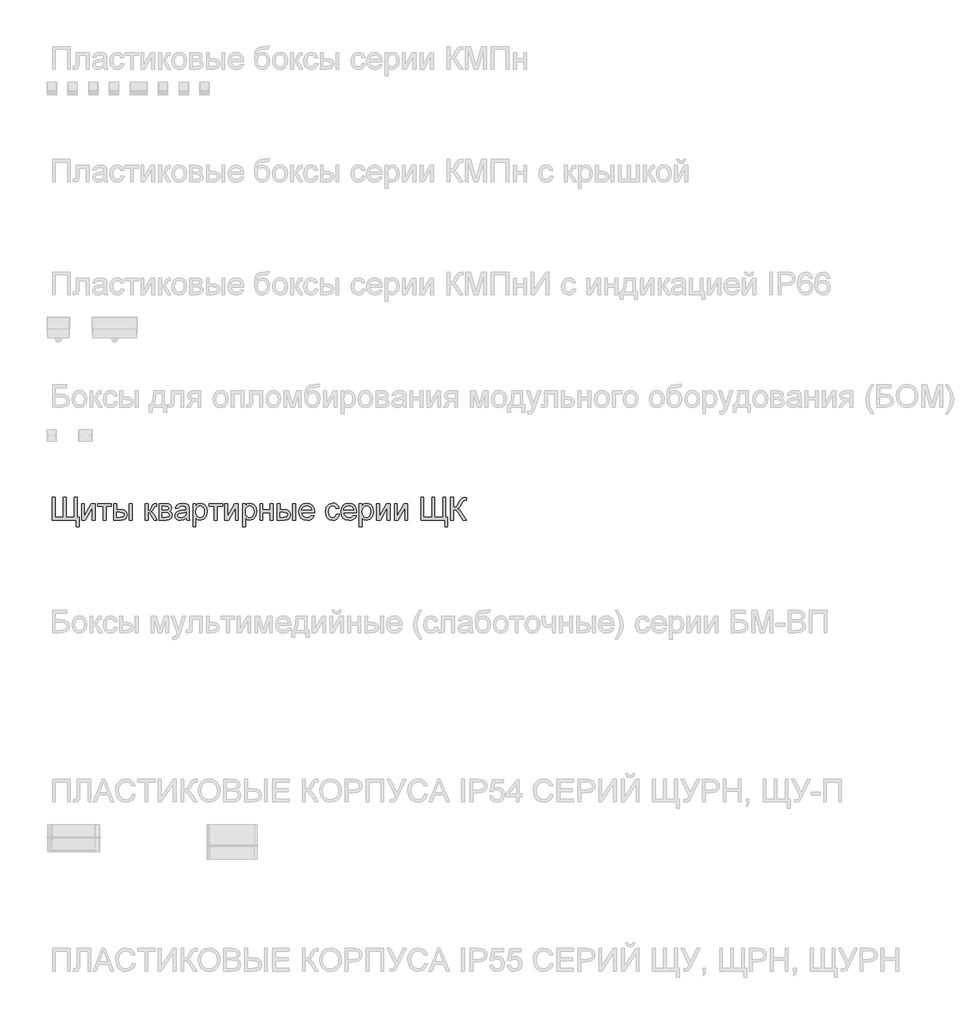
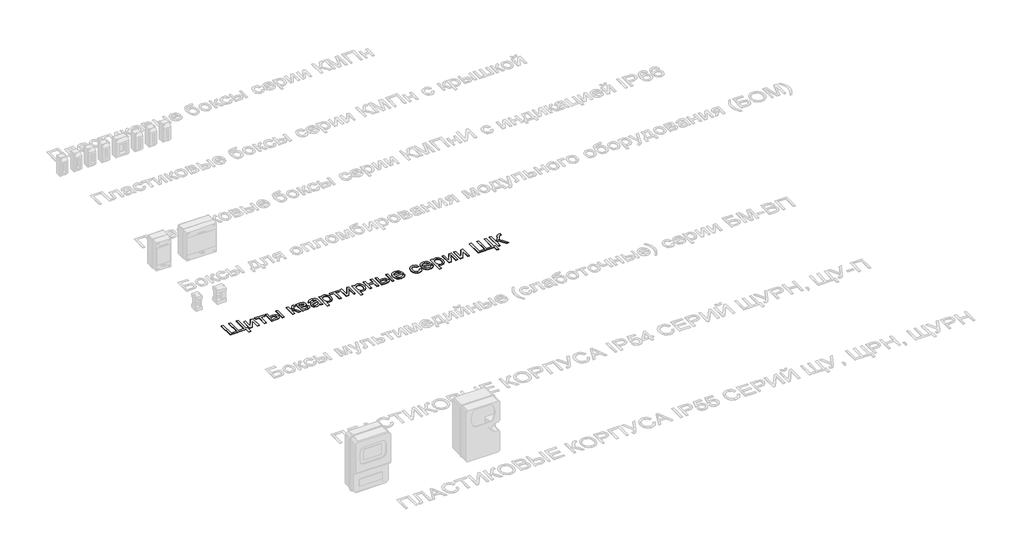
# One storey, part 18 of 25: 1 proxy.
"""IFC4 building model written with IfcOpenShell, lengths in millimetres."""

from ifc_helpers import new_model, si_unit, frame, origin, place, context, project, spatial, polyline, outline, extrude, element, save

model = new_model("IFC4")

# Units and contexts
model_context = context("Model", 3, world=origin())
ifc_project = project(units=[si_unit("LENGTHUNIT", "METRE", prefix="MILLI")], contexts=[model_context])

# Site, building, storey
site = spatial("IfcSite", under=ifc_project)
building = spatial("IfcBuilding", under=site)
storey = spatial("IfcBuildingStorey", under=building, Name="Этаж 01", Elevation=0.0)

# Proxy
placement = place(None, origin())
element("IfcBuildingElementProxy", 1, Name="Надпись на модели 1", ObjectType="Надпись на модели 1", at=placement, inside=storey, context=model_context, shape_type="SweptSolid", body=[
    extrude(outline(polyline([(-19039.6906686, 14136.6915941), (-19027.1336298, 14136.6915941), (-19027.1336298, 14048.7923228), (-18991.0321433, 14048.7923228), (-18991.0321433, 14136.6915941), (-18978.4751046, 14136.6915941), (-18978.4751046, 14048.7923228), (-18942.3736181, 14048.7923228), (-18942.3736181, 14136.6915941), (-18929.8165793, 14136.6915941), (-18929.8165793, 14048.7923228), (-18920.3988003, 14048.7923228), (-18920.3988003, 14007.9819468), (-18932.955839, 14007.9819468), (-18932.955839, 14036.235284), (-19039.6906686, 14036.235284), (-19039.6906686, 14136.6915941)])), frame((0.0, 0.0, 40.0), z_axis=(0.0, 0.0, 1.0), x_axis=(1.0, 0.0, 0.0)), (0.0, 0.0, 1.0), 2.0),
    extrude(outline(polyline([(-18909.4113913, 14110.0078868), (-18896.8543526, 14110.0078868), (-18896.8543526, 14053.746467), (-18866.0013159, 14110.0078868), (-18849.7654572, 14110.0078868), (-18849.7654572, 14036.235284), (-18862.322496, 14036.235284), (-18862.322496, 14092.1533473), (-18892.9793289, 14036.235284), (-18909.4113913, 14036.235284), (-18909.4113913, 14110.0078868)])), frame((0.0, 0.0, 40.0), z_axis=(0.0, 0.0, 1.0), x_axis=(1.0, 0.0, 0.0)), (0.0, 0.0, 1.0), 2.0),
    extrude(outline(polyline([(-18837.2084184, 14110.0078868), (-18777.5624843, 14110.0078868), (-18777.5624843, 14097.450848), (-18801.106932, 14097.450848), (-18801.106932, 14036.235284), (-18813.6639707, 14036.235284), (-18813.6639707, 14097.450848), (-18837.2084184, 14097.450848), (-18837.2084184, 14110.0078868)])), frame((0.0, 0.0, 40.0), z_axis=(0.0, 0.0, 1.0), x_axis=(1.0, 0.0, 0.0)), (0.0, 0.0, 1.0), 2.0),
    extrude(outline(polyline([(-18766.5750754, 14110.0078868), (-18754.0180366, 14110.0078868), (-18754.0180366, 14083.3241794), (-18738.4934164, 14083.3241794), (-18725.0749206, 14081.7514838), (-18715.1329097, 14077.0333973), (-18708.9800833, 14069.5500643), (-18706.9291412, 14059.6816298), (-18708.6489895, 14050.6961121), (-18713.8085345, 14043.1146773), (-18722.7450013, 14037.9551323), (-18735.7956151, 14036.235284), (-18766.5750754, 14036.235284), (-18766.5750754, 14110.0078868)]), holes=[polyline([(-18754.0180366, 14048.7923228), (-18741.1176413, 14048.7923228), (-18724.4648496, 14051.4288104), (-18719.48618, 14059.6571044), (-18723.1772627, 14067.3826263), (-18739.474435, 14070.7671406), (-18754.0180366, 14070.7671406), (-18754.0180366, 14048.7923228)])]), frame((0.0, 0.0, 40.0), z_axis=(0.0, 0.0, 1.0), x_axis=(1.0, 0.0, 0.0)), (0.0, 0.0, 1.0), 2.0),
    extrude(outline(polyline([(-18697.5113621, 14110.0078868), (-18684.9543234, 14110.0078868), (-18684.9543234, 14036.235284), (-18697.5113621, 14036.235284), (-18697.5113621, 14110.0078868)])), frame((0.0, 0.0, 40.0), z_axis=(0.0, 0.0, 1.0), x_axis=(1.0, 0.0, 0.0)), (0.0, 0.0, 1.0), 2.0),
    extrude(outline(polyline([(-18626.8780191, 14110.0078868), (-18614.3209803, 14110.0078868), (-18614.3209803, 14078.6152898), (-18605.9087453, 14080.8716327), (-18599.0170893, 14094.0172827), (-18593.2903929, 14105.3603109), (-18588.2381468, 14109.0513936), (-18579.0533597, 14110.0078868), (-18576.649864, 14110.0078868), (-18576.649864, 14097.3772716), (-18580.0343783, 14097.450848), (-18586.1657449, 14096.1264728), (-18590.482227, 14087.8613906), (-18595.5467358, 14078.9218582), (-18602.6468583, 14074.5440624), (-18594.7251327, 14069.6573633), (-18586.9505598, 14059.3627988), (-18573.5106043, 14036.235284), (-18587.7844257, 14036.235284), (-18600.9546011, 14058.8722894), (-18607.576477, 14068.449484), (-18614.3209803, 14070.7671406), (-18614.3209803, 14036.235284), (-18626.8780191, 14036.235284), (-18626.8780191, 14110.0078868)])), frame((0.0, 0.0, 40.0), z_axis=(0.0, 0.0, 1.0), x_axis=(1.0, 0.0, 0.0)), (0.0, 0.0, 1.0), 2.0),
    extrude(outline(polyline([(-18565.6624551, 14110.0078868), (-18537.997729, 14110.0078868), (-18522.8287281, 14108.3278923), (-18514.2938658, 14102.1720003), (-18510.7254104, 14091.4421087), (-18512.8836515, 14082.7233055), (-18519.3829001, 14076.5060997), (-18510.9461396, 14069.7002828), (-18507.5861508, 14057.8667453), (-18509.713735, 14048.2956821), (-18514.7721124, 14041.5573102), (-18522.7796772, 14037.5657905), (-18533.7548233, 14036.235284), (-18565.6624551, 14036.235284), (-18565.6624551, 14110.0078868)]), holes=[polyline([(-18553.1054163, 14081.7545495), (-18540.6955303, 14081.7545495), (-18530.4561481, 14082.3922117), (-18525.4774784, 14084.9428602), (-18523.2824492, 14089.5536478), (-18527.1329474, 14095.7095399), (-18540.3031229, 14097.450848), (-18553.1054163, 14097.450848), (-18553.1054163, 14081.7545495)]), polyline([(-18553.1054163, 14048.7923228), (-18537.7034234, 14048.7923228), (-18524.0427387, 14051.0609284), (-18520.1431895, 14058.8968149), (-18522.2891678, 14064.9423424), (-18527.8809742, 14068.4617468), (-18538.9296967, 14069.1975108), (-18553.1054163, 14069.1975108), (-18553.1054163, 14048.7923228)])]), frame((0.0, 0.0, 40.0), z_axis=(0.0, 0.0, 1.0), x_axis=(1.0, 0.0, 0.0)), (0.0, 0.0, 1.0), 2.0),
    extrude(outline(polyline([(-18444.8009569, 14045.6530631), (-18456.9778509, 14037.1427262), (-18470.4300692, 14034.6656541), (-18480.9239031, 14036.1555762), (-18488.6647535, 14040.6253425), (-18493.4380224, 14047.4127653), (-18495.029112, 14055.8556571), (-18492.6256163, 14065.7884709), (-18486.3103087, 14072.998958), (-18477.517929, 14077.1192364), (-18466.6531474, 14079.0076973), (-18444.8745333, 14083.3241794), (-18444.8009569, 14086.1200825), (-18448.2590477, 14095.3907088), (-18462.1404616, 14099.0204778), (-18474.8446532, 14096.6047194), (-18480.9024434, 14088.0330689), (-18493.4594821, 14089.6026988), (-18488.0270913, 14101.8654319), (-18477.0887333, 14109.0513936), (-18460.5217808, 14111.5775166), (-18445.303729, 14109.3456992), (-18436.707553, 14103.7416301), (-18432.8570548, 14095.2190306), (-18432.2439181, 14084.2316216), (-18432.2439181, 14068.6088996), (-18431.606256, 14046.7934973), (-18429.1046584, 14036.235284), (-18441.6616972, 14036.235284), (-18444.8009569, 14045.6530631)]), holes=[polyline([(-18444.8009569, 14070.7671406), (-18465.0589921, 14066.9166424), (-18475.86246, 14064.8810287), (-18480.7552906, 14061.5700907), (-18482.4720732, 14056.7385739), (-18478.7319396, 14049.9450197), (-18467.7567934, 14047.2226929), (-18455.0526018, 14050.2270625), (-18446.8610961, 14057.4988633), (-18444.8745333, 14067.210948), (-18444.8009569, 14070.7671406)])]), frame((0.0, 0.0, 40.0), z_axis=(0.0, 0.0, 1.0), x_axis=(1.0, 0.0, 0.0)), (0.0, 0.0, 1.0), 2.0),
    extrude(outline(polyline([(-18414.9779898, 14007.9819468), (-18414.9779898, 14110.0078868), (-18402.4209511, 14110.0078868), (-18402.4209511, 14097.6961027), (-18393.738936, 14108.1071631), (-18382.0157631, 14111.5775166), (-18366.0987354, 14106.7214743), (-18355.6999377, 14093.036264), (-18352.192796, 14073.6856711), (-18356.1536588, 14053.3417968), (-18367.6561025, 14039.4849083), (-18383.536342, 14034.6656541), (-18394.4624372, 14037.890753), (-18402.4209511, 14046.0454705), (-18402.4209511, 14007.9819468), (-18414.9779898, 14007.9819468)]), holes=[polyline([(-18402.4209511, 14072.5329742), (-18401.0628534, 14061.2757851), (-18396.9885603, 14053.4031104), (-18390.9767553, 14048.7677973), (-18383.8061221, 14047.2226929), (-18376.5189929, 14048.8229796), (-18370.3539038, 14053.6238396), (-18366.150852, 14061.7846886), (-18364.7498348, 14073.4649419), (-18366.1171295, 14084.6608173), (-18370.2190138, 14092.6438566), (-18376.2216216, 14097.4263225), (-18383.2910873, 14099.0204778), (-18390.3881441, 14097.325155), (-18396.6206783, 14092.2391864), (-18400.9708829, 14083.9219876), (-18402.4209511, 14072.5329742)])]), frame((0.0, 0.0, 40.0), z_axis=(0.0, 0.0, 1.0), x_axis=(1.0, 0.0, 0.0)), (0.0, 0.0, 1.0), 2.0),
    extrude(outline(polyline([(-18344.3446468, 14110.0078868), (-18284.6987126, 14110.0078868), (-18284.6987126, 14097.450848), (-18308.2431603, 14097.450848), (-18308.2431603, 14036.235284), (-18320.8001991, 14036.235284), (-18320.8001991, 14097.450848), (-18344.3446468, 14097.450848), (-18344.3446468, 14110.0078868)])), frame((0.0, 0.0, 40.0), z_axis=(0.0, 0.0, 1.0), x_axis=(1.0, 0.0, 0.0)), (0.0, 0.0, 1.0), 2.0),
    extrude(outline(polyline([(-18273.7113037, 14110.0078868), (-18261.1542649, 14110.0078868), (-18261.1542649, 14053.746467), (-18230.3012283, 14110.0078868), (-18214.0653695, 14110.0078868), (-18214.0653695, 14036.235284), (-18226.6224083, 14036.235284), (-18226.6224083, 14092.1533473), (-18257.2792412, 14036.235284), (-18273.7113037, 14036.235284), (-18273.7113037, 14110.0078868)])), frame((0.0, 0.0, 40.0), z_axis=(0.0, 0.0, 1.0), x_axis=(1.0, 0.0, 0.0)), (0.0, 0.0, 1.0), 2.0),
    extrude(outline(polyline([(-18195.2298114, 14007.9819468), (-18195.2298114, 14110.0078868), (-18182.6727726, 14110.0078868), (-18182.6727726, 14097.6961027), (-18173.9907575, 14108.1071631), (-18162.2675846, 14111.5775166), (-18146.350557, 14106.7214743), (-18135.9517592, 14093.036264), (-18132.4446175, 14073.6856711), (-18136.4054803, 14053.3417968), (-18147.9079241, 14039.4849083), (-18163.7881635, 14034.6656541), (-18174.7142588, 14037.890753), (-18182.6727726, 14046.0454705), (-18182.6727726, 14007.9819468), (-18195.2298114, 14007.9819468)]), holes=[polyline([(-18182.6727726, 14072.5329742), (-18181.3146749, 14061.2757851), (-18177.2403818, 14053.4031104), (-18171.2285769, 14048.7677973), (-18164.0579437, 14047.2226929), (-18156.7708145, 14048.8229796), (-18150.6057254, 14053.6238396), (-18146.4026736, 14061.7846886), (-18145.0016563, 14073.4649419), (-18146.3689511, 14084.6608173), (-18150.4708353, 14092.6438566), (-18156.4734432, 14097.4263225), (-18163.5429089, 14099.0204778), (-18170.6399657, 14097.325155), (-18176.8724998, 14092.2391864), (-18181.2227044, 14083.9219876), (-18182.6727726, 14072.5329742)])]), frame((0.0, 0.0, 40.0), z_axis=(0.0, 0.0, 1.0), x_axis=(1.0, 0.0, 0.0)), (0.0, 0.0, 1.0), 2.0),
    extrude(outline(polyline([(-18118.3179489, 14110.0078868), (-18105.7609102, 14110.0078868), (-18105.7609102, 14081.7545495), (-18072.7986834, 14081.7545495), (-18072.7986834, 14110.0078868), (-18060.2416446, 14110.0078868), (-18060.2416446, 14036.235284), (-18072.7986834, 14036.235284), (-18072.7986834, 14069.1975108), (-18105.7609102, 14069.1975108), (-18105.7609102, 14036.235284), (-18118.3179489, 14036.235284), (-18118.3179489, 14110.0078868)])), frame((0.0, 0.0, 40.0), z_axis=(0.0, 0.0, 1.0), x_axis=(1.0, 0.0, 0.0)), (0.0, 0.0, 1.0), 2.0),
    extrude(outline(polyline([(-17972.3423732, 14110.0078868), (-17959.7853345, 14110.0078868), (-17959.7853345, 14036.235284), (-17972.3423732, 14036.235284), (-17972.3423732, 14110.0078868)])), frame((0.0, 0.0, 40.0), z_axis=(0.0, 0.0, 1.0), x_axis=(1.0, 0.0, 0.0)), (0.0, 0.0, 1.0), 2.0),
    extrude(outline(polyline([(-18041.4060865, 14110.0078868), (-18028.8490477, 14110.0078868), (-18028.8490477, 14083.3241794), (-18013.3244275, 14083.3241794), (-17999.9059317, 14081.7514838), (-17989.9639208, 14077.0333973), (-17983.8110944, 14069.5500643), (-17981.7601523, 14059.6816298), (-17983.4800006, 14050.6961121), (-17988.6395456, 14043.1146773), (-17997.5760124, 14037.9551323), (-18010.6266262, 14036.235284), (-18041.4060865, 14036.235284), (-18041.4060865, 14110.0078868)]), holes=[polyline([(-18028.8490477, 14048.7923228), (-18015.9486524, 14048.7923228), (-17999.2958607, 14051.4288104), (-17994.3171911, 14059.6571044), (-17998.0082738, 14067.3826263), (-18014.3054462, 14070.7671406), (-18028.8490477, 14070.7671406), (-18028.8490477, 14048.7923228)])]), frame((0.0, 0.0, 40.0), z_axis=(0.0, 0.0, 1.0), x_axis=(1.0, 0.0, 0.0)), (0.0, 0.0, 1.0), 2.0),
    extrude(outline(polyline([(-17889.2991442, 14058.2101018), (-17876.9873601, 14056.640472), (-17881.4234038, 14047.3637143), (-17888.5020665, 14040.4291387), (-17898.0639327, 14036.1065253), (-17909.9495869, 14034.6656541), (-17924.6832608, 14037.1519233), (-17936.0201576, 14044.6107308), (-17943.2490388, 14056.5576985), (-17945.6586659, 14072.5084487), (-17943.2245133, 14088.9956935), (-17935.9220557, 14101.3258717), (-17924.7384431, 14109.0146054), (-17910.6608254, 14111.5775166), (-17897.0216004, 14109.0207367), (-17886.1230963, 14101.3503971), (-17878.9769885, 14089.0447444), (-17876.5949526, 14072.5820251), (-17876.668529, 14069.1975108), (-17933.1016271, 14069.1975108), (-17930.9280576, 14059.7981258), (-17925.8788772, 14052.8880756), (-17918.5917481, 14048.6390386), (-17909.7043322, 14047.2226929), (-17897.3925481, 14049.8469178), (-17889.2991442, 14058.2101018)]), holes=[polyline([(-17933.1016271, 14081.7545495), (-17889.1519914, 14081.7545495), (-17894.179712, 14093.1343659), (-17901.5005637, 14097.5489499), (-17910.7098763, 14099.0204778), (-17926.1731828, 14094.323851), (-17931.0384222, 14088.8332123), (-17933.1016271, 14081.7545495)])]), frame((0.0, 0.0, 40.0), z_axis=(0.0, 0.0, 1.0), x_axis=(1.0, 0.0, 0.0)), (0.0, 0.0, 1.0), 2.0),
    extrude(outline(polyline([(-17777.7082723, 14062.9189914), (-17765.1512336, 14061.3493615), (-17768.6522439, 14050.1810773), (-17775.2312002, 14041.7412512), (-17784.2688346, 14036.4345534), (-17795.1458789, 14034.6656541), (-17808.503061, 14037.1335292), (-17818.947844, 14044.5371544), (-17825.6892815, 14056.5515672), (-17827.9364274, 14072.8518052), (-17824.0981919, 14093.7107144), (-17812.3995445, 14107.1138817), (-17795.3175572, 14111.5775166), (-17784.7072273, 14110.044675), (-17776.2244816, 14105.44615), (-17770.1391003, 14098.0271964), (-17766.7208634, 14088.0330689), (-17779.2779022, 14086.4634391), (-17785.1027004, 14095.8689554), (-17795.2194553, 14099.0204778), (-17803.334319, 14097.4692421), (-17809.7753196, 14092.8155349), (-17813.9783714, 14084.8079701), (-17815.3793886, 14073.1951618), (-17814.0090282, 14061.4260036), (-17809.8979469, 14053.3908477), (-17803.5734423, 14048.7647316), (-17795.5628118, 14047.2226929), (-17783.7292743, 14051.0731911), (-17777.7082723, 14062.9189914)])), frame((0.0, 0.0, 40.0), z_axis=(0.0, 0.0, 1.0), x_axis=(1.0, 0.0, 0.0)), (0.0, 0.0, 1.0), 2.0),
    extrude(outline(polyline([(-17702.5131925, 14058.2101018), (-17690.2014084, 14056.640472), (-17694.6374521, 14047.3637143), (-17701.7161148, 14040.4291387), (-17711.277981, 14036.1065253), (-17723.1636352, 14034.6656541), (-17737.8973091, 14037.1519233), (-17749.2342059, 14044.6107308), (-17756.4630871, 14056.5576985), (-17758.8727142, 14072.5084487), (-17756.4385616, 14088.9956935), (-17749.136104, 14101.3258717), (-17737.9524914, 14109.0146054), (-17723.8748737, 14111.5775166), (-17710.2356487, 14109.0207367), (-17699.3371446, 14101.3503971), (-17692.1910369, 14089.0447444), (-17689.8090009, 14072.5820251), (-17689.8825773, 14069.1975108), (-17746.3156754, 14069.1975108), (-17744.1421059, 14059.7981258), (-17739.0929256, 14052.8880756), (-17731.8057964, 14048.6390386), (-17722.9183805, 14047.2226929), (-17710.6065964, 14049.8469178), (-17702.5131925, 14058.2101018)]), holes=[polyline([(-17746.3156754, 14081.7545495), (-17702.3660397, 14081.7545495), (-17707.3937603, 14093.1343659), (-17714.714612, 14097.5489499), (-17723.9239246, 14099.0204778), (-17739.3872312, 14094.323851), (-17744.2524705, 14088.8332123), (-17746.3156754, 14081.7545495)])]), frame((0.0, 0.0, 40.0), z_axis=(0.0, 0.0, 1.0), x_axis=(1.0, 0.0, 0.0)), (0.0, 0.0, 1.0), 2.0),
    extrude(outline(polyline([(-17677.2519622, 14007.9819468), (-17677.2519622, 14110.0078868), (-17664.6949234, 14110.0078868), (-17664.6949234, 14097.6961027), (-17656.0129083, 14108.1071631), (-17644.2897354, 14111.5775166), (-17628.3727077, 14106.7214743), (-17617.97391, 14093.036264), (-17614.4667683, 14073.6856711), (-17618.4276311, 14053.3417968), (-17629.9300749, 14039.4849083), (-17645.8103143, 14034.6656541), (-17656.7364096, 14037.890753), (-17664.6949234, 14046.0454705), (-17664.6949234, 14007.9819468), (-17677.2519622, 14007.9819468)]), holes=[polyline([(-17664.6949234, 14072.5329742), (-17663.3368257, 14061.2757851), (-17659.2625326, 14053.4031104), (-17653.2507277, 14048.7677973), (-17646.0800944, 14047.2226929), (-17638.7929653, 14048.8229796), (-17632.6278762, 14053.6238396), (-17628.4248244, 14061.7846886), (-17627.0238071, 14073.4649419), (-17628.3911018, 14084.6608173), (-17632.4929861, 14092.6438566), (-17638.495594, 14097.4263225), (-17645.5650597, 14099.0204778), (-17652.6621165, 14097.325155), (-17658.8946506, 14092.2391864), (-17663.2448552, 14083.9219876), (-17664.6949234, 14072.5329742)])]), frame((0.0, 0.0, 40.0), z_axis=(0.0, 0.0, 1.0), x_axis=(1.0, 0.0, 0.0)), (0.0, 0.0, 1.0), 2.0),
    extrude(outline(polyline([(-17600.3400997, 14110.0078868), (-17587.7830609, 14110.0078868), (-17587.7830609, 14053.746467), (-17556.9300243, 14110.0078868), (-17540.6941656, 14110.0078868), (-17540.6941656, 14036.235284), (-17553.2512043, 14036.235284), (-17553.2512043, 14092.1533473), (-17583.9080373, 14036.235284), (-17600.3400997, 14036.235284), (-17600.3400997, 14110.0078868)])), frame((0.0, 0.0, 40.0), z_axis=(0.0, 0.0, 1.0), x_axis=(1.0, 0.0, 0.0)), (0.0, 0.0, 1.0), 2.0),
    extrude(outline(polyline([(-17521.8586074, 14110.0078868), (-17509.3015686, 14110.0078868), (-17509.3015686, 14053.746467), (-17478.448532, 14110.0078868), (-17462.2126733, 14110.0078868), (-17462.2126733, 14036.235284), (-17474.769712, 14036.235284), (-17474.769712, 14092.1533473), (-17505.426545, 14036.235284), (-17521.8586074, 14036.235284), (-17521.8586074, 14110.0078868)])), frame((0.0, 0.0, 40.0), z_axis=(0.0, 0.0, 1.0), x_axis=(1.0, 0.0, 0.0)), (0.0, 0.0, 1.0), 2.0),
    extrude(outline(polyline([(-17404.136369, 14136.6915941), (-17391.5793302, 14136.6915941), (-17391.5793302, 14048.7923228), (-17355.4778437, 14048.7923228), (-17355.4778437, 14136.6915941), (-17342.920805, 14136.6915941), (-17342.920805, 14048.7923228), (-17306.8193185, 14048.7923228), (-17306.8193185, 14136.6915941), (-17294.2622797, 14136.6915941), (-17294.2622797, 14048.7923228), (-17284.8445006, 14048.7923228), (-17284.8445006, 14007.9819468), (-17297.4015394, 14007.9819468), (-17297.4015394, 14036.235284), (-17404.136369, 14036.235284), (-17404.136369, 14136.6915941)])), frame((0.0, 0.0, 40.0), z_axis=(0.0, 0.0, 1.0), x_axis=(1.0, 0.0, 0.0)), (0.0, 0.0, 1.0), 2.0),
    extrude(outline(polyline([(-17272.2874619, 14136.6915941), (-17259.7304231, 14136.6915941), (-17259.7304231, 14092.7419585), (-17245.6895936, 14096.0651591), (-17235.8916698, 14112.8773663), (-17228.9632256, 14126.9181958), (-17221.1150764, 14133.8711655), (-17209.8946755, 14136.6915941), (-17201.6541188, 14136.5444413), (-17201.6541188, 14123.9874026), (-17204.4254965, 14124.060979), (-17207.1968742, 14124.1345554), (-17217.0070607, 14121.117923), (-17224.4628025, 14108.1930022), (-17233.3532841, 14092.4476529), (-17242.0230364, 14087.248254), (-17232.3293458, 14081.5706085), (-17222.7705453, 14069.737071), (-17201.6541188, 14036.235284), (-17216.2222458, 14036.235284), (-17234.0767853, 14064.5376722), (-17246.6460868, 14079.3142656), (-17259.7304231, 14083.3241794), (-17259.7304231, 14036.235284), (-17272.2874619, 14036.235284), (-17272.2874619, 14136.6915941)])), frame((0.0, 0.0, 40.0), z_axis=(0.0, 0.0, 1.0), x_axis=(1.0, 0.0, 0.0)), (0.0, 0.0, 1.0), 2.0),
])

save(model, "model.ifc")
